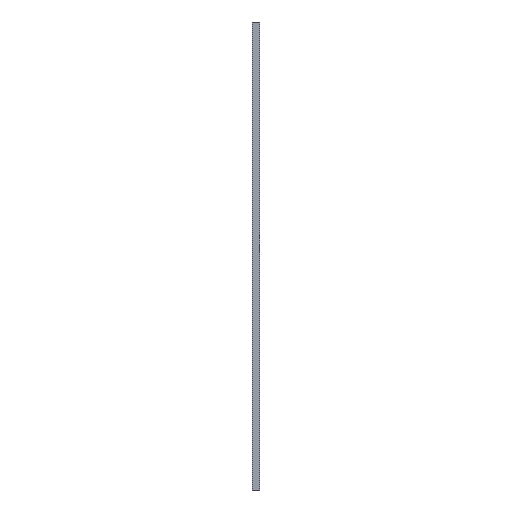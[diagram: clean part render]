
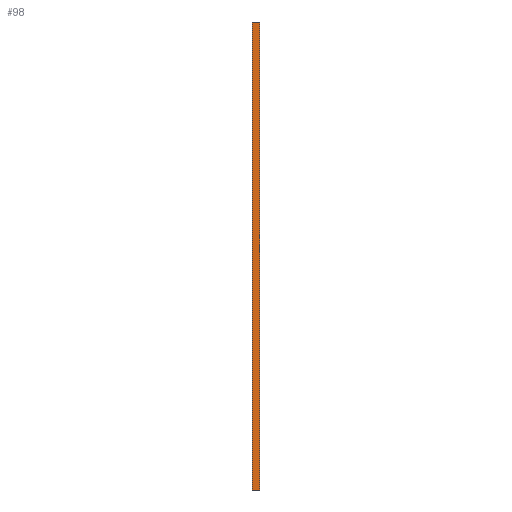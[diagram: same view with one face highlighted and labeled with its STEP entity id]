
A CAD part, left-side view. The second image highlights one B-rep face of the part: STEP entity #98.
In plain terms, the highlighted planar face has unit normal (-1, 0, 0).
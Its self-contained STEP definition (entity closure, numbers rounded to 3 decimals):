
#72 = LINE ( 'NONE', #716, #743 ) ;
#80 = CARTESIAN_POINT ( 'NONE',  ( -711.5, 0., -1150. ) ) ;
#92 = CARTESIAN_POINT ( 'NONE',  ( -711.5, -20., -1150. ) ) ;
#98 = ADVANCED_FACE ( 'NONE', ( #438 ), #950, .T. ) ;
#198 = VERTEX_POINT ( 'NONE', #372 ) ;
#206 = CARTESIAN_POINT ( 'NONE',  ( -711.5, -20., 150. ) ) ;
#252 = LINE ( 'NONE', #607, #778 ) ;
#324 = EDGE_LOOP ( 'NONE', ( #511, #1018, #792, #346 ) ) ;
#346 = ORIENTED_EDGE ( 'NONE', *, *, #1109, .T. ) ;
#372 = CARTESIAN_POINT ( 'NONE',  ( -711.5, 0., -1150. ) ) ;
#424 = DIRECTION ( 'NONE',  ( -1., 0., 0. ) ) ;
#428 = AXIS2_PLACEMENT_3D ( 'NONE', #784, #424, #859 ) ;
#432 = VECTOR ( 'NONE', #1123, 1000. ) ;
#438 = FACE_OUTER_BOUND ( 'NONE', #324, .T. ) ;
#452 = DIRECTION ( 'NONE',  ( 0., 0., 1. ) ) ;
#511 = ORIENTED_EDGE ( 'NONE', *, *, #1118, .F. ) ;
#530 = EDGE_CURVE ( 'NONE', #870, #198, #72, .T. ) ;
#536 = CARTESIAN_POINT ( 'NONE',  ( -711.5, 0., 150. ) ) ;
#543 = EDGE_CURVE ( 'NONE', #870, #738, #882, .T. ) ;
#562 = VECTOR ( 'NONE', #452, 1000. ) ;
#607 = CARTESIAN_POINT ( 'NONE',  ( -711.5, -20., 150. ) ) ;
#716 = CARTESIAN_POINT ( 'NONE',  ( -711.5, -20., -1150. ) ) ;
#738 = VERTEX_POINT ( 'NONE', #206 ) ;
#743 = VECTOR ( 'NONE', #889, 1000. ) ;
#777 = CARTESIAN_POINT ( 'NONE',  ( -711.5, -20., -1150. ) ) ;
#778 = VECTOR ( 'NONE', #868, 1000. ) ;
#784 = CARTESIAN_POINT ( 'NONE',  ( -711.5, -20., -1150. ) ) ;
#792 = ORIENTED_EDGE ( 'NONE', *, *, #543, .T. ) ;
#859 = DIRECTION ( 'NONE',  ( 0., 0., 1. ) ) ;
#868 = DIRECTION ( 'NONE',  ( 0., 1., 0. ) ) ;
#870 = VERTEX_POINT ( 'NONE', #777 ) ;
#882 = LINE ( 'NONE', #92, #562 ) ;
#889 = DIRECTION ( 'NONE',  ( 0., 1., 0. ) ) ;
#950 = PLANE ( 'NONE',  #428 ) ;
#952 = VERTEX_POINT ( 'NONE', #536 ) ;
#957 = LINE ( 'NONE', #80, #432 ) ;
#1018 = ORIENTED_EDGE ( 'NONE', *, *, #530, .F. ) ;
#1109 = EDGE_CURVE ( 'NONE', #738, #952, #252, .T. ) ;
#1118 = EDGE_CURVE ( 'NONE', #198, #952, #957, .T. ) ;
#1123 = DIRECTION ( 'NONE',  ( 0., 0., 1. ) ) ;
